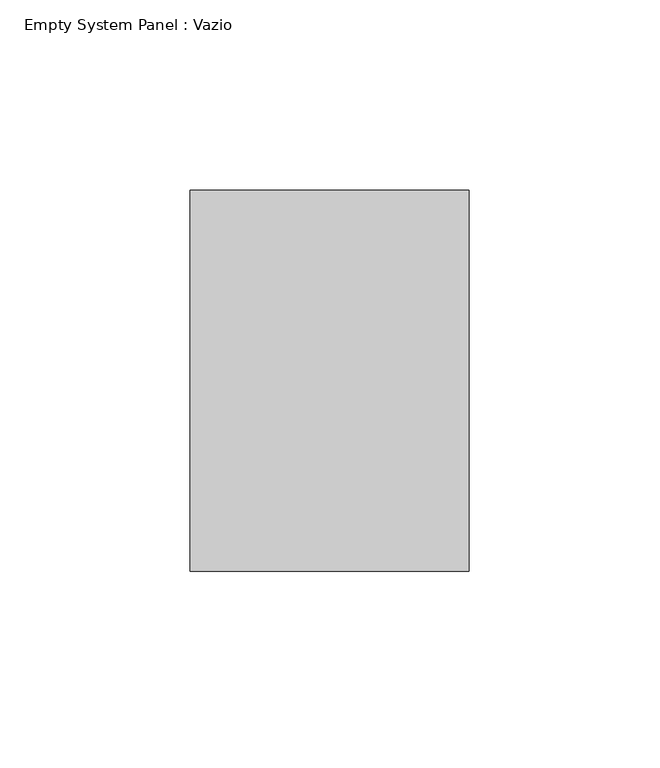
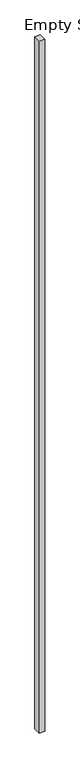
"""IFC4 building model written with IfcOpenShell, lengths in millimetres: plate geometry, Empty System Panel : Vazio."""

from ifc_helpers import new_model, si_unit, frame, origin, place, context, project, spatial, polyline, outline, extrude, source, transform, mapped, element, save


def empty_system_panel_vazio_354873e3(model_context):
    return source(origin(), model_context, "Body", "SweptSolid", [
        extrude(outline(polyline([(0.0, -36.724013), (0.0, 36.724013), (9686.7859067, 36.5738809), (9686.78131, -36.724013), (0.0, -36.724013)])), frame((0.0, 50.0, 0.0), z_axis=(0.0, 1.0, 0.0), x_axis=(0.0, 0.0, 1.0)), (0.0, 0.0, 1.0), 100.0),
    ])


if __name__ == "__main__":
    model = new_model("IFC4")
    model_context = context("Model", 3, world=origin())
    ifc_project = project(units=[si_unit("LENGTHUNIT", "METRE", prefix="MILLI")], contexts=[model_context])
    site = spatial("IfcSite", under=ifc_project)
    building = spatial("IfcBuilding", under=site)
    placement = place(None, origin())
    empty_system_panel_vazio_shape = empty_system_panel_vazio_354873e3(model_context)
    element("IfcPlate", 1, ObjectType="Empty System Panel : Vazio", at=placement, inside=building, context=model_context, shape_type="MappedRepresentation", body=[
        mapped(empty_system_panel_vazio_shape, transform((0.0, 0.0, 0.0), x_axis=(1.0, 0.0, 0.0), y_axis=(0.0, 1.0, 0.0), z_axis=(0.0, 0.0, 1.0))),
    ])
    save(model, "model.ifc")
